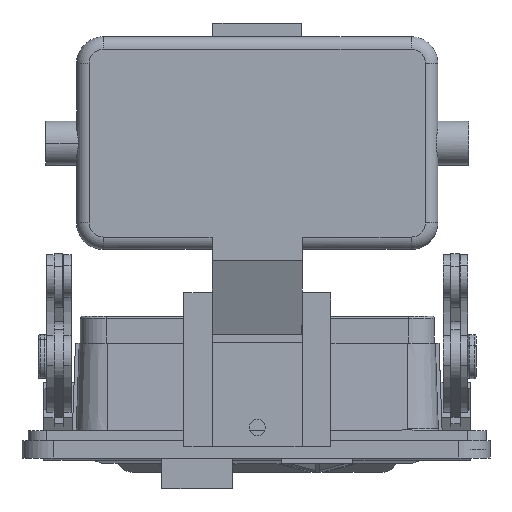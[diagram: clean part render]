
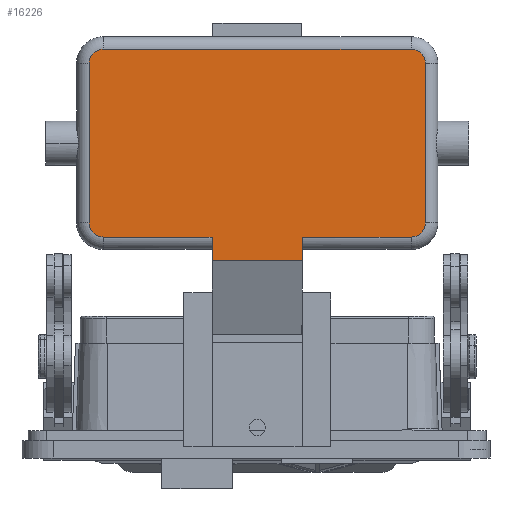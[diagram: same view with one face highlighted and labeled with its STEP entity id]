
A CAD part, front view. The second image highlights one B-rep face of the part: STEP entity #16226.
In plain terms, the highlighted planar face has unit normal (0, -1, 0).
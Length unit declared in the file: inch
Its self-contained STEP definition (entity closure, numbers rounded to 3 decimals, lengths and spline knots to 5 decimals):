
#14043 = VERTEX_POINT ( 'NONE', #33485 ) ;
#14157 = EDGE_CURVE ( 'NONE', #14453, #14349, #33776, .T. ) ;
#14211 = VERTEX_POINT ( 'NONE', #33873 ) ;
#14213 = EDGE_CURVE ( 'NONE', #14453, #14211, #33871, .T. ) ;
#14234 = VERTEX_POINT ( 'NONE', #34043 ) ;
#14240 = VERTEX_POINT ( 'NONE', #34037 ) ;
#14349 = VERTEX_POINT ( 'NONE', #34517 ) ;
#14418 = VERTEX_POINT ( 'NONE', #34634 ) ;
#14420 = EDGE_CURVE ( 'NONE', #14043, #14418, #34632, .T. ) ;
#14431 = EDGE_CURVE ( 'NONE', #14234, #14240, #34676, .T. ) ;
#14453 = VERTEX_POINT ( 'NONE', #34886 ) ;
#15203 = ORIENTED_EDGE ( 'NONE', *, *, #15205, .T. ) ;
#15205 = EDGE_CURVE ( 'NONE', #14211, #14043, #24139, .T. ) ;
#15208 = ORIENTED_EDGE ( 'NONE', *, *, #14420, .T. ) ;
#15209 = ORIENTED_EDGE ( 'NONE', *, *, #15295, .T. ) ;
#15211 = ORIENTED_EDGE ( 'NONE', *, *, #15660, .T. ) ;
#15227 = EDGE_LOOP ( 'NONE', ( #16228, #16230, #16232, #16233, #15203, #15208, #15209, #15211, #16235, #16237, #16239, #16241 ) ) ;
#15292 = VERTEX_POINT ( 'NONE', #24361 ) ;
#15295 = EDGE_CURVE ( 'NONE', #14418, #15292, #24359, .T. ) ;
#15459 = VERTEX_POINT ( 'NONE', #24700 ) ;
#15462 = EDGE_CURVE ( 'NONE', #15656, #15459, #24698, .T. ) ;
#15540 = EDGE_CURVE ( 'NONE', #15459, #15566, #25303, .T. ) ;
#15566 = VERTEX_POINT ( 'NONE', #25323 ) ;
#15572 = EDGE_CURVE ( 'NONE', #15566, #14234, #25322, .T. ) ;
#15656 = VERTEX_POINT ( 'NONE', #25582 ) ;
#15660 = EDGE_CURVE ( 'NONE', #15292, #15656, #25644, .T. ) ;
#16083 = VERTEX_POINT ( 'NONE', #27026 ) ;
#16189 = EDGE_CURVE ( 'NONE', #16083, #14349, #27504, .T. ) ;
#16201 = EDGE_CURVE ( 'NONE', #16083, #14240, #27437, .T. ) ;
#16226 = ADVANCED_FACE ( 'NONE', ( #27588 ), #27753, .F. ) ;
#16228 = ORIENTED_EDGE ( 'NONE', *, *, #16201, .F. ) ;
#16230 = ORIENTED_EDGE ( 'NONE', *, *, #16189, .T. ) ;
#16232 = ORIENTED_EDGE ( 'NONE', *, *, #14157, .F. ) ;
#16233 = ORIENTED_EDGE ( 'NONE', *, *, #14213, .T. ) ;
#16235 = ORIENTED_EDGE ( 'NONE', *, *, #15462, .T. ) ;
#16237 = ORIENTED_EDGE ( 'NONE', *, *, #15540, .T. ) ;
#16239 = ORIENTED_EDGE ( 'NONE', *, *, #15572, .T. ) ;
#16241 = ORIENTED_EDGE ( 'NONE', *, *, #14431, .T. ) ;
#24133 = DIRECTION ( 'NONE',  ( -1., 0., 0. ) ) ;
#24135 = DIRECTION ( 'NONE',  ( 0., -1., 0. ) ) ;
#24136 = CARTESIAN_POINT ( 'NONE',  ( 1.237, -1.8715, 1.82 ) ) ;
#24137 = AXIS2_PLACEMENT_3D ( 'NONE', #24136, #24135, #24133 ) ;
#24139 = CIRCLE ( 'NONE', #24137, 0.11462 ) ;
#24355 = DIRECTION ( 'NONE',  ( -1., 0., 0. ) ) ;
#24356 = DIRECTION ( 'NONE',  ( 0., -1., 0. ) ) ;
#24357 = CARTESIAN_POINT ( 'NONE',  ( 1.237, -1.8715, 3.1 ) ) ;
#24358 = AXIS2_PLACEMENT_3D ( 'NONE', #24357, #24356, #24355 ) ;
#24359 = CIRCLE ( 'NONE', #24358, 0.11462 ) ;
#24361 = CARTESIAN_POINT ( 'NONE',  ( 1.237, -1.8715, 3.21462 ) ) ;
#24693 = DIRECTION ( 'NONE',  ( -1., 0., 0. ) ) ;
#24694 = DIRECTION ( 'NONE',  ( 0., -1., 0. ) ) ;
#24695 = CARTESIAN_POINT ( 'NONE',  ( -1.237, -1.8715, 3.1 ) ) ;
#24697 = AXIS2_PLACEMENT_3D ( 'NONE', #24695, #24694, #24693 ) ;
#24698 = CIRCLE ( 'NONE', #24697, 0.11462 ) ;
#24700 = CARTESIAN_POINT ( 'NONE',  ( -1.35162, -1.8715, 3.1 ) ) ;
#25300 = DIRECTION ( 'NONE',  ( 0., 0., -1. ) ) ;
#25301 = VECTOR ( 'NONE', #25300, 39.37008 ) ;
#25302 = CARTESIAN_POINT ( 'NONE',  ( -1.35162, -1.8715, -0.82251 ) ) ;
#25303 = LINE ( 'NONE', #25302, #25301 ) ;
#25318 = DIRECTION ( 'NONE',  ( -1., 0., 0. ) ) ;
#25319 = DIRECTION ( 'NONE',  ( 0., -1., 0. ) ) ;
#25320 = CARTESIAN_POINT ( 'NONE',  ( -1.237, -1.8715, 1.82 ) ) ;
#25321 = AXIS2_PLACEMENT_3D ( 'NONE', #25320, #25319, #25318 ) ;
#25322 = CIRCLE ( 'NONE', #25321, 0.11462 ) ;
#25323 = CARTESIAN_POINT ( 'NONE',  ( -1.35162, -1.8715, 1.82 ) ) ;
#25582 = CARTESIAN_POINT ( 'NONE',  ( -1.237, -1.8715, 3.21462 ) ) ;
#25641 = DIRECTION ( 'NONE',  ( -1., 0., 0. ) ) ;
#25642 = VECTOR ( 'NONE', #25641, 39.37008 ) ;
#25643 = CARTESIAN_POINT ( 'NONE',  ( 0., -1.8715, 3.21462 ) ) ;
#25644 = LINE ( 'NONE', #25643, #25642 ) ;
#27026 = CARTESIAN_POINT ( 'NONE',  ( -0.36338, -1.8715, 1.51569 ) ) ;
#27434 = DIRECTION ( 'NONE',  ( 0., 0., 1. ) ) ;
#27435 = VECTOR ( 'NONE', #27434, 39.37008 ) ;
#27436 = CARTESIAN_POINT ( 'NONE',  ( -0.36338, -1.8715, -0.82251 ) ) ;
#27437 = LINE ( 'NONE', #27436, #27435 ) ;
#27476 = DIRECTION ( 'NONE',  ( 1., 0., 0. ) ) ;
#27477 = VECTOR ( 'NONE', #27476, 39.37008 ) ;
#27478 = CARTESIAN_POINT ( 'NONE',  ( 0., -1.8715, 1.51569 ) ) ;
#27504 = LINE ( 'NONE', #27478, #27477 ) ;
#27588 = FACE_OUTER_BOUND ( 'NONE', #15227, .T. ) ;
#27749 = DIRECTION ( 'NONE',  ( -1., 0., 0. ) ) ;
#27750 = DIRECTION ( 'NONE',  ( 0., 1., 0. ) ) ;
#27751 = CARTESIAN_POINT ( 'NONE',  ( 0., -1.8715, -0.82251 ) ) ;
#27752 = AXIS2_PLACEMENT_3D ( 'NONE', #27751, #27750, #27749 ) ;
#27753 = PLANE ( 'NONE',  #27752 ) ;
#33485 = CARTESIAN_POINT ( 'NONE',  ( 1.35162, -1.8715, 1.82 ) ) ;
#33773 = DIRECTION ( 'NONE',  ( 0., 0., -1. ) ) ;
#33774 = VECTOR ( 'NONE', #33773, 39.37008 ) ;
#33775 = CARTESIAN_POINT ( 'NONE',  ( 0.36338, -1.8715, -0.82251 ) ) ;
#33776 = LINE ( 'NONE', #33775, #33774 ) ;
#33825 = DIRECTION ( 'NONE',  ( 1., 0., 0. ) ) ;
#33826 = VECTOR ( 'NONE', #33825, 39.37008 ) ;
#33827 = CARTESIAN_POINT ( 'NONE',  ( 1.237, -1.8715, 1.70538 ) ) ;
#33871 = LINE ( 'NONE', #33827, #33826 ) ;
#33873 = CARTESIAN_POINT ( 'NONE',  ( 1.237, -1.8715, 1.70538 ) ) ;
#34037 = CARTESIAN_POINT ( 'NONE',  ( -0.36338, -1.8715, 1.70538 ) ) ;
#34043 = CARTESIAN_POINT ( 'NONE',  ( -1.237, -1.8715, 1.70538 ) ) ;
#34517 = CARTESIAN_POINT ( 'NONE',  ( 0.36338, -1.8715, 1.51569 ) ) ;
#34629 = DIRECTION ( 'NONE',  ( 0., 0., 1. ) ) ;
#34630 = VECTOR ( 'NONE', #34629, 39.37008 ) ;
#34631 = CARTESIAN_POINT ( 'NONE',  ( 1.35162, -1.8715, 3.1 ) ) ;
#34632 = LINE ( 'NONE', #34631, #34630 ) ;
#34634 = CARTESIAN_POINT ( 'NONE',  ( 1.35162, -1.8715, 3.1 ) ) ;
#34673 = DIRECTION ( 'NONE',  ( 1., 0., 0. ) ) ;
#34674 = VECTOR ( 'NONE', #34673, 39.37008 ) ;
#34675 = CARTESIAN_POINT ( 'NONE',  ( -0.36338, -1.8715, 1.70538 ) ) ;
#34676 = LINE ( 'NONE', #34675, #34674 ) ;
#34886 = CARTESIAN_POINT ( 'NONE',  ( 0.36338, -1.8715, 1.70538 ) ) ;
